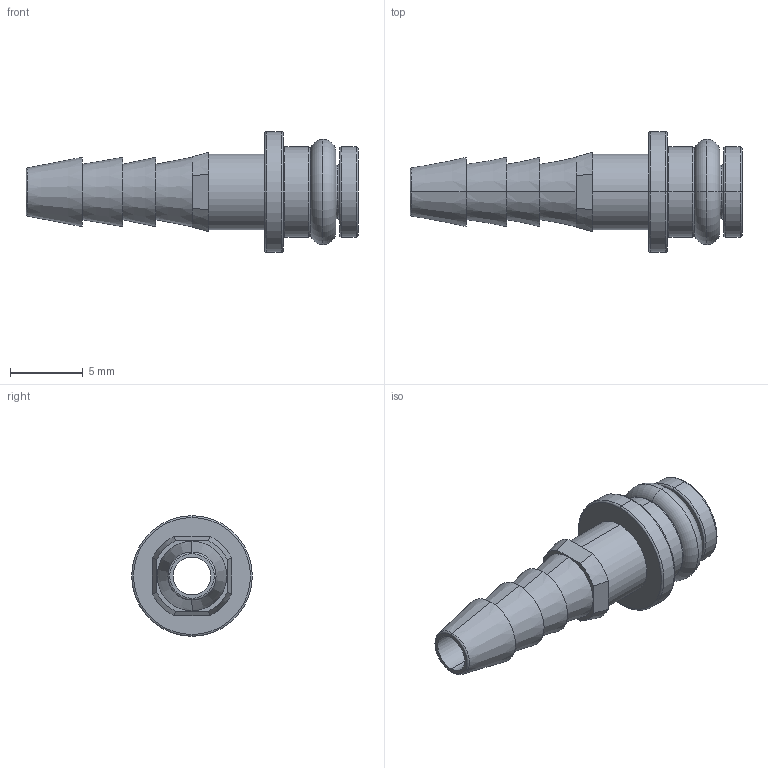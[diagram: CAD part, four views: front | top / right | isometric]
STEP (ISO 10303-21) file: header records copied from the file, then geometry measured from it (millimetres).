
FILE_DESCRIPTION (( 'STEP AP214' ), '1' );
FILE_NAME ('CX-4.0PM.STEP', '2006-07-06T14:08:28', ( 'Mencom User' ), ( 'Mencom Corporation' ), 'SwSTEP 2.0', 'SolidWorks 2006104', '' );
FILE_SCHEMA (( 'AUTOMOTIVE_DESIGN' ));
Length unit declared in the file: inch
Products named in the file (1): CX-4.0PM
Bounding box: 22.86 x 8.31 x 8.31 mm (x, y, z)
Volume: 373.9 mm3; surface area: 781.3 mm2
Topology: 2 solids, 2 shells, 61 faces, 128 edges, 78 vertices
Faces by surface type: torus 22, plane 15, cone 12, cylinder 12
Entity records: 1712 total; most frequent: DIRECTION 336, CARTESIAN_POINT 292, ORIENTED_EDGE 256, AXIS2_PLACEMENT_3D 154, EDGE_CURVE 128, CIRCLE 92, VERTEX_POINT 78, EDGE_LOOP 72
